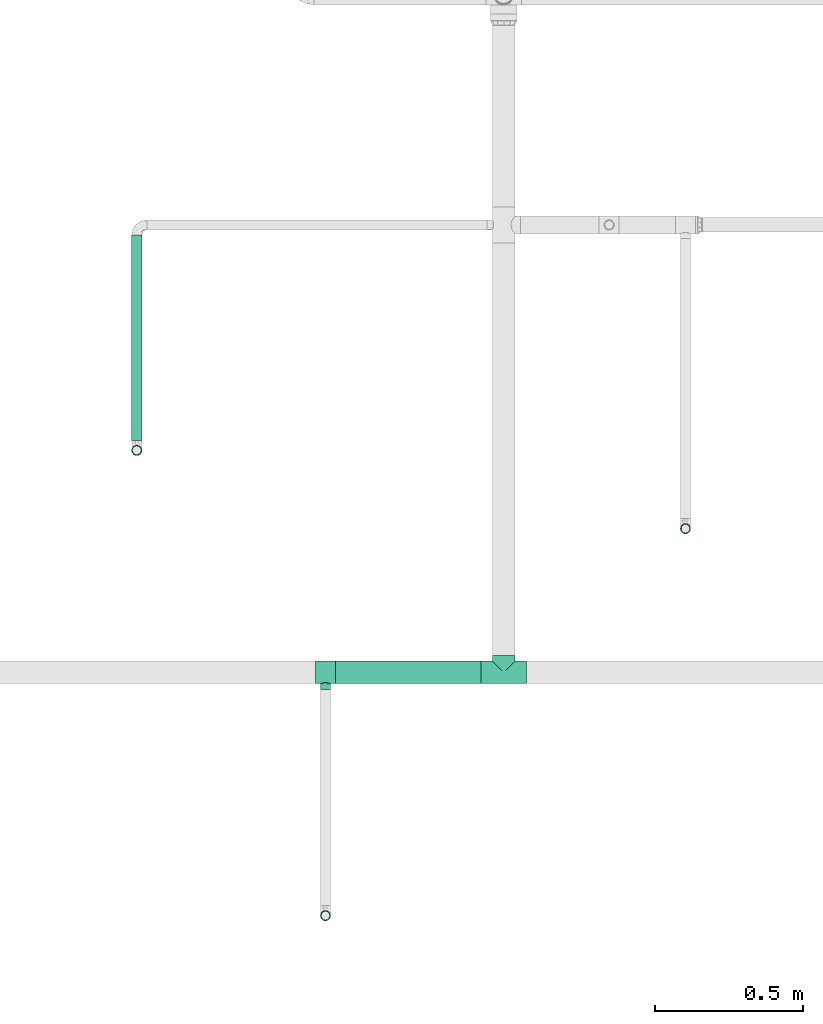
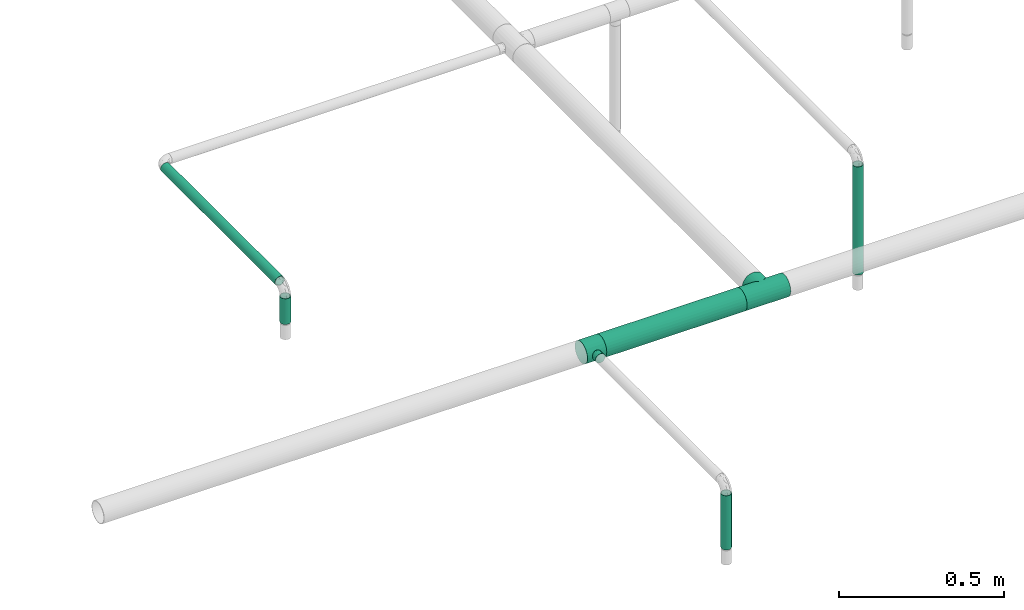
# One storey, part 2 of 45: 5 flow segments, 2 flow fittings.
"""IFC2X3 building model written with IfcOpenShell, lengths in millimetres."""

from ifc_helpers import new_model, entity, si_unit, converted_unit, derived_unit, direction, frame, origin_with_axes, origin_2d_with_axis, place, context, subcontext, project, spatial, hollow_circle, extrude, open_shell, surface_model, source, transform, mapped, type_object, element, save


model = new_model("IFC2X3")

# Units and contexts
model_context = context("Model", 3, precision=0.01, world=frame((0.0, 4.29681676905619e-09, 0.0)), true_north=direction((4.01073788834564e-13, 1.0)))
plan_context = context("Plan", 3, precision=0.01, world=frame((0.0, 4.29681676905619e-09, 0.0)), true_north=direction((4.01073788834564e-13, 1.0)))
body_context = subcontext(model_context, "Body", "Model", "MODEL_VIEW")
ifc_project = project(units=[converted_unit("PLANEANGLEUNIT", "DEGREE", entity("IfcPositiveLengthMeasure", 0.0174532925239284), si_unit("PLANEANGLEUNIT", "RADIAN"), dimensions=[0, 0, 0, 0, 0, 0, 0]), si_unit("AREAUNIT", "SQUARE_METRE"), si_unit("LENGTHUNIT", "METRE", prefix="MILLI"), si_unit("MASSUNIT", "GRAM", prefix="KILO"), si_unit("POWERUNIT", "WATT"), si_unit("PRESSUREUNIT", "PASCAL", prefix="KILO"), si_unit("FORCEUNIT", "NEWTON", prefix="KILO"), si_unit("ELECTRICVOLTAGEUNIT", "VOLT"), si_unit("ELECTRICCURRENTUNIT", "AMPERE"), si_unit("THERMODYNAMICTEMPERATUREUNIT", "DEGREE_CELSIUS"), si_unit("TIMEUNIT", "SECOND"), si_unit("VOLUMEUNIT", "CUBIC_METRE"), derived_unit("LINEARVELOCITYUNIT", [(si_unit("LENGTHUNIT", "METRE"), 1), (si_unit("TIMEUNIT", "SECOND"), -1)]), derived_unit("VOLUMETRICFLOWRATEUNIT", [(si_unit("VOLUMEUNIT", "CUBIC_METRE"), 1), (si_unit("TIMEUNIT", "SECOND"), -1)]), derived_unit("THERMALTRANSMITTANCEUNIT", [(si_unit("POWERUNIT", "WATT"), 1), (si_unit("THERMODYNAMICTEMPERATUREUNIT", "KELVIN"), -1), (si_unit("AREAUNIT", "SQUARE_METRE"), -1)]), derived_unit("SOUNDPRESSUREUNIT", [(si_unit("PRESSUREUNIT", "PASCAL"), 1)])], contexts=[model_context, plan_context])

# Site, building, storey
site_placement = place(None, frame((0.0, -4.29681676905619e-09, 0.0), z_axis=(0.0, 0.0, 1.0), x_axis=(1.0, 0.0, 0.0)))
site = spatial("IfcSite", under=ifc_project, at=site_placement, CompositionType="ELEMENT")
building_placement = place(site_placement, frame((0.0, 4.29681676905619e-09, 0.0), z_axis=(0.0, 0.0, 1.0), x_axis=(1.0, 0.0, 0.0)))
building = spatial("IfcBuilding", under=site, at=building_placement, Name="mc-building", CompositionType="ELEMENT")
storey_placement = place(building_placement, frame((0.0, 0.0, 210200.0), z_axis=(0.0, 0.0, 1.0), x_axis=(1.0, 0.0, 0.0)))
storey = spatial("IfcBuildingStorey", under=building, at=storey_placement, Name="Nivå F - 0,7 m", CompositionType="ELEMENT", Elevation=210200.0)

# Flow fittings
pipe_fitting_type = type_object("IfcPipeFittingType", Name="magi_pipe_fe_tee_centric_90_001", PredefinedType="JUNCTION")
shared_shape_1 = source(origin_with_axes(), body_context, "Body", "SurfaceModel", [
    surface_model("IfcShellBasedSurfaceModel", [(-33.8, 9.86101, -36.80177), (-33.8, 0.0, -38.1), (-33.8, 36.80177, -9.86101), (-33.8, 19.05, -32.99557), (-33.8, 32.99557, -19.05), (-33.8, 26.94077, -26.94077), (-33.8, -38.1, 0.0), (-33.8, -19.05, -32.99557), (-33.8, -26.94077, -26.94077), (-33.8, -9.86101, -36.80177), (-33.8, -32.99557, -19.05), (-33.8, -36.80177, -9.86101), (-33.8, 38.1, 0.0), (-33.8, 32.99557, 19.05), (-33.8, 36.80177, 9.86101), (-33.8, -36.80177, 9.86101), (-33.8, 19.05, 32.99557), (-33.8, 26.94077, 26.94077), (-33.8, 9.86101, 36.80177), (-33.8, 0.0, 38.1), (-33.8, -26.94077, 26.94077), (-33.8, -32.99557, 19.05), (-33.8, -9.86101, 36.80177), (-33.8, -19.05, 32.99557), (33.8, 0.0, -38.1), (33.8, 9.86101, -36.80177), (33.8, 19.05, -32.99557), (33.8, 26.94077, -26.94077), (33.8, 32.99557, -19.05), (33.8, 36.80177, -9.86101), (33.8, -38.1, 0.0), (33.8, -9.86101, -36.80177), (33.8, -26.94077, -26.94077), (33.8, -19.05, -32.99557), (33.8, -32.99557, -19.05), (33.8, -36.80177, -9.86101), (33.8, 36.80177, 9.86101), (33.8, 32.99557, 19.05), (33.8, 19.05, 32.99557), (33.8, 0.0, 38.1), (33.8, 26.94077, 26.94077), (33.8, 9.86101, 36.80177), (33.8, -26.94077, 26.94077), (33.8, -32.99557, 19.05), (33.8, -36.80177, 9.86101), (33.8, -19.05, 32.99557), (33.8, -9.86101, 36.80177), (33.8, 38.1, 0.0), (33.8, -37.45089, 4.9305), (15.86072, -37.65053, 5.83504), (16.9, -38.1, 0.0), (12.92726, -36.51183, 10.88559), (2.96752, -34.27545, 16.63742), (33.8, -34.89867, 14.4555), (8.48894, -35.18611, 14.61328), (-8.4904, -35.18646, 14.61243), (-33.8, -34.89867, 14.4555), (-15.8612, -37.65073, 5.83372), (-33.8, -37.45089, 4.9305), (-16.9, -38.1, 0.0), (-12.9317, -36.51341, 10.88031), (-2.97221, -34.27585, 16.63658), (-33.8, -37.45089, -4.9305), (-15.8612, -37.65073, -5.83372), (15.86072, -37.65053, -5.83504), (33.8, -37.45089, -4.9305), (-12.9317, -36.51341, -10.88031), (-33.8, -34.89867, -14.4555), (-8.4904, -35.18646, -14.61243), (2.96752, -34.27545, -16.63742), (8.48894, -35.18611, -14.61328), (33.8, -34.89867, -14.4555), (12.92726, -36.51183, -10.88559), (-2.97221, -34.27585, -16.63658), (4.37404, -57.15, -16.32415), (-16.9, -57.15, 0.0), (0.0, -57.15, -16.9), (14.63583, -57.15, -8.45), (8.45, -57.15, -14.63583), (16.32415, -57.15, -4.37404), (11.9501, -57.15, -11.9501), (-11.9501, -57.15, -11.9501), (-8.45, -57.15, -14.63583), (-4.37404, -57.15, -16.32415), (-14.63583, -57.15, -8.45), (-16.32415, -57.15, -4.37404), (16.9, -57.15, 0.0), (8.45, -57.15, 14.63583), (16.32415, -57.15, 4.37404), (14.63583, -57.15, 8.45), (-8.45, -57.15, 14.63583), (11.9501, -57.15, 11.9501), (4.37404, -57.15, 16.32415), (-16.32415, -57.15, 4.37404), (-11.9501, -57.15, 11.9501), (-14.63583, -57.15, 8.45), (0.0, -57.15, 16.9), (-4.37404, -57.15, 16.32415), (-16.3806, -37.87537, 2.91686), (-5.7313, -34.73116, 15.62451), (-0.00235, -34.27565, 16.637), (5.72823, -34.73078, 15.62535), (16.38036, -37.87526, 2.91752), (16.38036, -37.87526, -2.91752), (5.72823, -34.73078, -15.62535), (-0.00235, -34.27565, -16.637), (-5.7313, -34.73116, -15.62451), (-16.3806, -37.87537, -2.91686)], [open_shell([[[0, 1, 2]], [[3, 0, 2]], [[2, 4, 5]], [[3, 2, 5]], [[6, 2, 1]], [[7, 8, 9]], [[8, 1, 9]], [[10, 11, 8]], [[6, 8, 11]], [[8, 6, 1]], [[6, 12, 2]], [[13, 14, 12]], [[15, 13, 6]], [[16, 13, 15]], [[17, 13, 16]], [[18, 16, 19]], [[20, 19, 21]], [[16, 15, 21]], [[22, 19, 23]], [[20, 23, 19]], [[21, 19, 16]], [[12, 6, 13]], [[24, 25, 26]], [[24, 26, 27]], [[27, 28, 29]], [[24, 27, 30]], [[30, 27, 29]], [[31, 32, 33]], [[31, 24, 32]], [[34, 30, 35]], [[30, 34, 32]], [[24, 30, 32]], [[29, 36, 30]], [[36, 37, 30]], [[30, 37, 38]], [[38, 39, 30]], [[38, 37, 40]], [[39, 38, 41]], [[30, 42, 43]], [[44, 30, 43]], [[45, 39, 46]], [[45, 42, 30]], [[30, 39, 45]], [[36, 29, 47]], [[48, 44, 49]], [[50, 30, 48]], [[44, 51, 49]], [[43, 42, 52]], [[50, 48, 49]], [[44, 53, 51]], [[52, 54, 43]], [[42, 20, 52]], [[54, 53, 43]], [[55, 21, 56]], [[57, 58, 59]], [[6, 59, 58]], [[57, 60, 15]], [[55, 61, 21]], [[51, 53, 54]], [[15, 60, 56]], [[21, 61, 20]], [[56, 60, 55]], [[61, 52, 20]], [[57, 15, 58]], [[42, 23, 20]], [[19, 46, 39]], [[22, 45, 46]], [[18, 39, 41]], [[37, 36, 14]], [[17, 38, 40]], [[13, 40, 37]], [[41, 38, 16]], [[12, 36, 47]], [[23, 45, 22]], [[22, 46, 19]], [[18, 19, 39]], [[41, 16, 18]], [[16, 38, 17]], [[13, 17, 40]], [[14, 13, 37]], [[36, 12, 14]], [[45, 23, 42]], [[12, 47, 29]], [[29, 28, 2]], [[59, 62, 63]], [[27, 4, 28]], [[9, 24, 31]], [[0, 26, 25]], [[64, 35, 65]], [[24, 1, 25]], [[31, 33, 7]], [[27, 26, 5]], [[66, 67, 68]], [[4, 2, 28]], [[12, 29, 2]], [[27, 5, 4]], [[3, 26, 0]], [[26, 3, 5]], [[0, 25, 1]], [[9, 1, 24]], [[31, 7, 9]], [[33, 8, 7]], [[32, 34, 69]], [[70, 34, 71]], [[70, 69, 34]], [[35, 72, 71]], [[32, 69, 8]], [[30, 50, 65]], [[64, 72, 35]], [[64, 65, 50]], [[72, 70, 71]], [[73, 68, 10]], [[10, 8, 73]], [[68, 67, 10]], [[73, 8, 69]], [[66, 63, 11]], [[63, 62, 11]], [[62, 59, 6]], [[11, 67, 66]], [[32, 8, 33]], [[74, 75, 76]], [[77, 74, 78]], [[77, 79, 74]], [[77, 78, 80]], [[75, 74, 79]], [[76, 81, 82]], [[82, 83, 76]], [[84, 75, 85]], [[81, 76, 84]], [[75, 84, 76]], [[79, 86, 75]], [[87, 86, 88]], [[87, 88, 89]], [[90, 75, 87]], [[87, 89, 91]], [[90, 87, 92]], [[93, 94, 95]], [[94, 93, 90]], [[90, 96, 97]], [[93, 75, 90]], [[92, 96, 90]], [[87, 75, 86]], [[93, 98, 75]], [[60, 95, 94]], [[93, 95, 57]], [[94, 90, 55]], [[98, 59, 75]], [[57, 95, 60]], [[97, 61, 99]], [[55, 60, 94]], [[96, 52, 100]], [[87, 101, 92]], [[99, 90, 97]], [[99, 55, 90]], [[93, 57, 98]], [[92, 52, 96]], [[49, 89, 88]], [[102, 86, 50]], [[102, 49, 88]], [[91, 89, 51]], [[96, 61, 97]], [[101, 52, 92]], [[87, 54, 101]], [[87, 91, 54]], [[54, 91, 51]], [[51, 89, 49]], [[86, 102, 88]], [[100, 61, 96]], [[79, 103, 86]], [[72, 77, 80]], [[79, 77, 64]], [[80, 78, 70]], [[103, 50, 86]], [[64, 77, 72]], [[74, 69, 104]], [[70, 72, 80]], [[76, 73, 105]], [[82, 106, 83]], [[107, 75, 59]], [[104, 78, 74]], [[104, 70, 78]], [[68, 82, 81]], [[79, 64, 103]], [[63, 84, 85]], [[107, 63, 85]], [[84, 66, 81]], [[76, 69, 74]], [[83, 106, 73]], [[73, 76, 83]], [[68, 106, 82]], [[68, 81, 66]], [[66, 84, 63]], [[75, 107, 85]], [[105, 69, 76]]])]),
])
flow_fitting_1_placement = place(storey_placement, frame((323518.2, 460120.00018, 2938.0), z_axis=(0.0, 0.0, -1.0), x_axis=(-1.0, 0.0, 0.0)))
element("IfcFlowFitting", 1, at=flow_fitting_1_placement, inside=storey, type_object=pipe_fitting_type, Name="magi_pipe_fe_tee_centric_90_001", context=body_context, shape_type="MappedRepresentation", body=[
    mapped(shared_shape_1, transform((0.0, 0.0, 0.0), scale=1.0)),
])
shared_shape_2 = source(origin_with_axes(), body_context, "Body", "SurfaceModel", [
    surface_model("IfcShellBasedSurfaceModel", [(-76.2, 19.05, -32.99557), (-76.2, 9.86101, -36.80177), (-76.2, 0.0, -38.1), (-76.2, 26.94077, -26.94077), (-76.2, 36.80177, -9.86101), (-76.2, 32.99557, -19.05), (-76.2, -19.05, -32.99557), (-76.2, -26.94077, -26.94077), (-76.2, -9.86101, -36.80177), (-76.2, 38.1, 0.0), (-76.2, 36.80177, 9.86101), (-76.2, -38.1, 0.0), (-76.2, -36.80177, -9.86101), (-76.2, -32.99557, -19.05), (-76.2, 32.99557, 19.05), (-76.2, -36.80177, 9.86101), (-76.2, 19.05, 32.99557), (-76.2, 26.94077, 26.94077), (-76.2, 0.0, 38.1), (-76.2, 9.86101, 36.80177), (-76.2, -26.94077, 26.94077), (-76.2, -32.99557, 19.05), (-76.2, -9.86101, 36.80177), (-76.2, -19.05, 32.99557), (76.2, 0.0, -38.1), (76.2, -36.80177, 9.86101), (76.2, -38.1, 0.0), (76.2, 36.80177, -9.86101), (76.2, 9.86101, -36.80177), (76.2, 19.05, -32.99557), (76.2, 26.94077, -26.94077), (76.2, 32.99557, -19.05), (76.2, -9.86101, -36.80177), (76.2, -26.94077, -26.94077), (76.2, -19.05, -32.99557), (76.2, -32.99557, -19.05), (76.2, -36.80177, -9.86101), (76.2, 19.05, 32.99557), (76.2, 36.80177, 9.86101), (76.2, 32.99557, 19.05), (76.2, 0.0, 38.1), (76.2, 26.94077, 26.94077), (76.2, 9.86101, 36.80177), (76.2, -32.99557, 19.05), (76.2, -26.94077, 26.94077), (76.2, -19.05, 32.99557), (76.2, -9.86101, 36.80177), (76.2, 38.1, 0.0), (37.03376, -37.03376, 8.95045), (38.1, -38.1, 0.0), (76.2, -34.89867, 14.4555), (35.56052, -35.56052, 12.98504), (34.08727, -34.08727, 17.01964), (18.8305, -18.8305, 33.12132), (76.2, -22.99539, 29.96817), (29.78269, -29.78269, 23.76134), (76.2, -29.96817, 22.99539), (24.5894, -24.5894, 29.10277), (-35.56052, -35.56052, 12.98504), (-76.2, -34.89867, 14.4555), (-34.08727, -34.08727, 17.01964), (-37.03376, -37.03376, 8.95045), (-38.1, -38.1, 0.0), (-18.8305, -18.8305, 33.12132), (-76.2, -22.99539, 29.96817), (-29.78269, -29.78269, 23.76134), (-24.5894, -24.5894, 29.10277), (-76.2, -29.96817, 22.99539), (-12.71924, -12.71924, 35.91422), (6.40528, -6.40528, 37.55772), (12.71924, -12.71924, 35.91422), (0.0, 0.0, 38.1), (-6.40528, -6.40528, 37.55772), (6.40528, -6.40528, -37.55772), (0.0, 0.0, -38.1), (12.71924, -12.71924, -35.91422), (-24.5894, -24.5894, -29.10277), (-76.2, -22.99539, -29.96817), (-35.56052, -35.56052, -12.98504), (-37.03376, -37.03376, -8.95045), (-29.78269, -29.78269, -23.76134), (-76.2, -29.96817, -22.99539), (-6.40528, -6.40528, -37.55772), (-12.71924, -12.71924, -35.91422), (18.8305, -18.8305, -33.12132), (76.2, -22.99539, -29.96817), (24.5894, -24.5894, -29.10277), (-76.2, -34.89867, -14.4555), (-34.08727, -34.08727, -17.01964), (29.78269, -29.78269, -23.76134), (76.2, -29.96817, -22.99539), (37.03376, -37.03376, -8.95045), (35.56052, -35.56052, -12.98504), (34.08727, -34.08727, -17.01964), (76.2, -34.89867, -14.4555), (-18.8305, -18.8305, -33.12132), (0.0, -57.15, -38.1), (9.86101, -57.15, -36.80177), (19.05, -57.15, -32.99557), (26.94077, -57.15, -26.94077), (32.99557, -57.15, -19.05), (36.80177, -57.15, -9.86101), (0.0, -57.15, 38.1), (-26.94077, -57.15, -26.94077), (-9.86101, -57.15, -36.80177), (-19.05, -57.15, -32.99557), (-36.80177, -57.15, -9.86101), (-32.99557, -57.15, -19.05), (-32.99557, -57.15, 19.05), (-36.80177, -57.15, 9.86101), (-38.1, -57.15, 0.0), (19.05, -57.15, 32.99557), (36.80177, -57.15, 9.86101), (32.99557, -57.15, 19.05), (26.94077, -57.15, 26.94077), (9.86101, -57.15, 36.80177), (-26.94077, -57.15, 26.94077), (-19.05, -57.15, 32.99557), (-9.86101, -57.15, 36.80177), (38.1, -57.15, 0.0)], [open_shell([[[0, 1, 2]], [[3, 0, 2]], [[4, 5, 3]], [[6, 7, 8]], [[9, 4, 10]], [[11, 3, 2]], [[4, 3, 11]], [[11, 8, 7]], [[12, 11, 13]], [[7, 13, 11]], [[11, 2, 8]], [[11, 10, 4]], [[14, 10, 11]], [[14, 11, 15]], [[15, 16, 14]], [[17, 14, 16]], [[18, 19, 16]], [[20, 18, 21]], [[15, 21, 18]], [[22, 18, 23]], [[20, 23, 18]], [[18, 16, 15]], [[24, 25, 26]], [[27, 28, 29]], [[30, 31, 27]], [[30, 27, 29]], [[28, 25, 24]], [[32, 33, 34]], [[32, 24, 33]], [[35, 26, 36]], [[26, 35, 33]], [[24, 26, 33]], [[28, 27, 37]], [[27, 38, 37]], [[37, 38, 39]], [[37, 40, 28]], [[37, 39, 41]], [[40, 37, 42]], [[43, 40, 44]], [[25, 28, 43]], [[45, 40, 46]], [[40, 45, 44]], [[40, 43, 28]], [[38, 27, 47]], [[26, 25, 48]], [[48, 49, 26]], [[25, 50, 51]], [[50, 43, 52]], [[45, 53, 54]], [[44, 55, 56]], [[55, 44, 57]], [[43, 55, 52]], [[57, 44, 54]], [[15, 58, 59]], [[60, 59, 58]], [[61, 11, 62]], [[11, 61, 15]], [[15, 61, 58]], [[63, 23, 64]], [[65, 66, 20]], [[65, 67, 21]], [[20, 66, 64]], [[63, 68, 23]], [[65, 21, 60]], [[50, 52, 51]], [[54, 53, 57]], [[46, 40, 69]], [[25, 51, 48]], [[53, 45, 70]], [[69, 70, 46]], [[65, 20, 67]], [[69, 40, 71]], [[70, 45, 46]], [[14, 41, 39]], [[10, 39, 38]], [[16, 42, 37]], [[17, 37, 41]], [[42, 71, 40]], [[9, 38, 47]], [[72, 71, 18]], [[60, 21, 59]], [[72, 22, 68]], [[22, 72, 18]], [[22, 23, 68]], [[71, 19, 18]], [[63, 64, 66]], [[42, 19, 71]], [[16, 19, 42]], [[16, 37, 17]], [[14, 17, 41]], [[10, 14, 39]], [[38, 9, 10]], [[55, 43, 56]], [[3, 31, 30]], [[4, 27, 31]], [[9, 47, 27]], [[0, 30, 29]], [[24, 32, 73]], [[28, 24, 74]], [[73, 32, 75]], [[76, 7, 77]], [[29, 28, 1]], [[32, 34, 75]], [[24, 73, 74]], [[4, 31, 5]], [[0, 3, 30]], [[5, 31, 3]], [[9, 27, 4]], [[12, 78, 79]], [[80, 13, 81]], [[82, 83, 8]], [[74, 82, 2]], [[74, 2, 1]], [[2, 82, 8]], [[83, 6, 8]], [[1, 0, 29]], [[74, 1, 28]], [[84, 85, 86]], [[85, 33, 86]], [[87, 88, 78]], [[84, 34, 85]], [[89, 86, 33]], [[90, 35, 89]], [[34, 84, 75]], [[36, 91, 92]], [[91, 36, 26]], [[93, 94, 92]], [[49, 91, 26]], [[35, 93, 89]], [[76, 77, 95]], [[36, 92, 94]], [[77, 6, 95]], [[7, 76, 80]], [[7, 80, 81]], [[93, 35, 94]], [[95, 6, 83]], [[79, 62, 11]], [[12, 87, 78]], [[88, 87, 13]], [[12, 79, 11]], [[88, 13, 80]], [[89, 33, 90]], [[96, 97, 98]], [[96, 98, 99]], [[99, 100, 101]], [[99, 101, 96]], [[102, 103, 96]], [[104, 103, 105]], [[104, 96, 103]], [[103, 106, 107]], [[103, 108, 106]], [[106, 109, 110]], [[111, 96, 101]], [[112, 113, 101]], [[101, 113, 111]], [[111, 102, 96]], [[111, 113, 114]], [[102, 111, 115]], [[108, 102, 116]], [[109, 106, 108]], [[117, 102, 118]], [[102, 117, 116]], [[102, 108, 103]], [[112, 101, 119]], [[61, 62, 110]], [[109, 61, 110]], [[116, 117, 66]], [[65, 108, 116]], [[60, 109, 108]], [[68, 117, 118]], [[60, 61, 109]], [[66, 65, 116]], [[60, 108, 65]], [[68, 63, 117]], [[102, 71, 72]], [[68, 118, 72]], [[66, 117, 63]], [[72, 118, 102]], [[69, 102, 115]], [[111, 70, 115]], [[113, 112, 52]], [[55, 114, 113]], [[57, 111, 114]], [[48, 112, 119]], [[57, 53, 111]], [[70, 69, 115]], [[53, 70, 111]], [[49, 48, 119]], [[52, 55, 113]], [[48, 52, 112]], [[57, 114, 55]], [[102, 69, 71]], [[49, 119, 91]], [[101, 91, 119]], [[89, 100, 99]], [[99, 98, 86]], [[93, 101, 100]], [[75, 98, 97]], [[93, 91, 101]], [[86, 89, 99]], [[93, 100, 89]], [[75, 84, 98]], [[96, 74, 73]], [[75, 97, 73]], [[86, 98, 84]], [[73, 97, 96]], [[82, 96, 104]], [[105, 83, 104]], [[107, 106, 88]], [[80, 103, 107]], [[76, 105, 103]], [[79, 106, 110]], [[76, 95, 105]], [[83, 82, 104]], [[95, 83, 105]], [[62, 79, 110]], [[88, 80, 107]], [[79, 88, 106]], [[76, 103, 80]], [[96, 82, 74]]])]),
])
flow_fitting_2_placement = place(storey_placement, frame((324119.17326, 460120.00018, 2938.0), z_axis=(0.0, 0.0, 1.0), x_axis=(-1.0, 0.0, 0.0)))
element("IfcFlowFitting", 2, at=flow_fitting_2_placement, inside=storey, type_object=pipe_fitting_type, Name="magi_pipe_fe_tee_centric_90_001", context=body_context, shape_type="MappedRepresentation", body=[
    mapped(shared_shape_2, transform((0.0, 0.0, 0.0), scale=1.0)),
])

# Flow segments
pipe_segment_type = type_object("IfcPipeSegmentType", Name="Stålrør normaltykke", PredefinedType="RIGIDSEGMENT")
shared_shape_3 = source(origin_with_axes(), body_context, "Body", "SweptSolid", [
    extrude(hollow_circle(Radius=38.0, WallThickness=2.0, at=origin_2d_with_axis()), frame((0.0, 0.0, 0.0), z_axis=(1.0, 0.0, 0.0), x_axis=(0.0, 1.0, 0.0)), (0.0, 0.0, 1.0), 491.0),
])
flow_segment_1_placement = place(storey_placement, frame((323552.0, 460120.00018, 2938.0), z_axis=(0.0, 0.0, 1.0), x_axis=(1.0, 0.0, 0.0)))
element("IfcFlowSegment", 3, at=flow_segment_1_placement, inside=storey, type_object=pipe_segment_type, Name="Stålrør normaltykke", context=body_context, shape_type="MappedRepresentation", body=[
    mapped(shared_shape_3, transform((0.0, 0.0, 0.0), scale=1.0)),
])
shared_shape_4 = source(origin_with_axes(), body_context, "Body", "SweptSolid", [
    extrude(hollow_circle(Radius=16.9, WallThickness=2.0, at=origin_2d_with_axis()), frame((0.0, 0.0, 0.0), z_axis=(1.0, 0.0, 0.0), x_axis=(0.0, 1.0, 0.0)), (0.0, 0.0, 1.0), 400.2),
])
flow_segment_2_placement = place(storey_placement, frame((324731.5, 460604.5, 2904.20000000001), z_axis=(0.0, -1.0, 0.0), x_axis=(0.0, 0.0, -1.0)))
element("IfcFlowSegment", 4, at=flow_segment_2_placement, inside=storey, type_object=pipe_segment_type, Name="Stålrør normaltykke", context=body_context, shape_type="MappedRepresentation", body=[
    mapped(shared_shape_4, transform((0.0, 0.0, 0.0), scale=1.0)),
])
shared_shape_5 = source(origin_with_axes(), body_context, "Body", "SweptSolid", [
    extrude(hollow_circle(Radius=16.9, WallThickness=2.0, at=origin_2d_with_axis()), frame((0.0, 0.0, 0.0), z_axis=(1.0, 0.0, 0.0), x_axis=(0.0, 1.0, 0.0)), (0.0, 0.0, 1.0), 692.4),
])
flow_segment_3_placement = place(storey_placement, frame((322882.02326, 461594.60208, 2938.0), z_axis=(0.0, 0.0, 1.0), x_axis=(0.0, -1.0, 0.0)))
element("IfcFlowSegment", 5, at=flow_segment_3_placement, inside=storey, type_object=pipe_segment_type, Name="Stålrør normaltykke", context=body_context, shape_type="MappedRepresentation", body=[
    mapped(shared_shape_5, transform((0.0, 0.0, 0.0), scale=1.0)),
])
shared_shape_6 = source(origin_with_axes(), body_context, "Body", "SweptSolid", [
    extrude(hollow_circle(Radius=16.9, WallThickness=2.0, at=origin_2d_with_axis()), frame((0.0, 0.0, 0.0), z_axis=(1.0, 0.0, 0.0), x_axis=(0.0, 1.0, 0.0)), (0.0, 0.0, 1.0), 95.2),
])
flow_segment_4_placement = place(storey_placement, frame((322882.02326, 460868.40208, 2808.95199999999), z_axis=(0.0, 1.0, 0.0), x_axis=(0.0, 0.0, 1.0)))
element("IfcFlowSegment", 6, at=flow_segment_4_placement, inside=storey, type_object=pipe_segment_type, Name="Stålrør normaltykke", context=body_context, shape_type="MappedRepresentation", body=[
    mapped(shared_shape_6, transform((0.0, 0.0, 0.0), scale=1.0)),
])
shared_shape_7 = source(origin_with_axes(), body_context, "Body", "SweptSolid", [
    extrude(hollow_circle(Radius=16.9, WallThickness=2.0, at=origin_2d_with_axis()), frame((0.0, 0.0, 0.0), z_axis=(1.0, 0.0, 0.0), x_axis=(0.0, 1.0, 0.0)), (0.0, 0.0, 1.0), 200.2),
])
flow_segment_5_placement = place(storey_placement, frame((323518.2, 459300.0, 2703.95199999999), z_axis=(0.0, 1.0, 0.0), x_axis=(0.0, 0.0, 1.0)))
element("IfcFlowSegment", 7, at=flow_segment_5_placement, inside=storey, type_object=pipe_segment_type, Name="Stålrør normaltykke", context=body_context, shape_type="MappedRepresentation", body=[
    mapped(shared_shape_7, transform((0.0, 0.0, 0.0), scale=1.0)),
])

save(model, "model.ifc")
